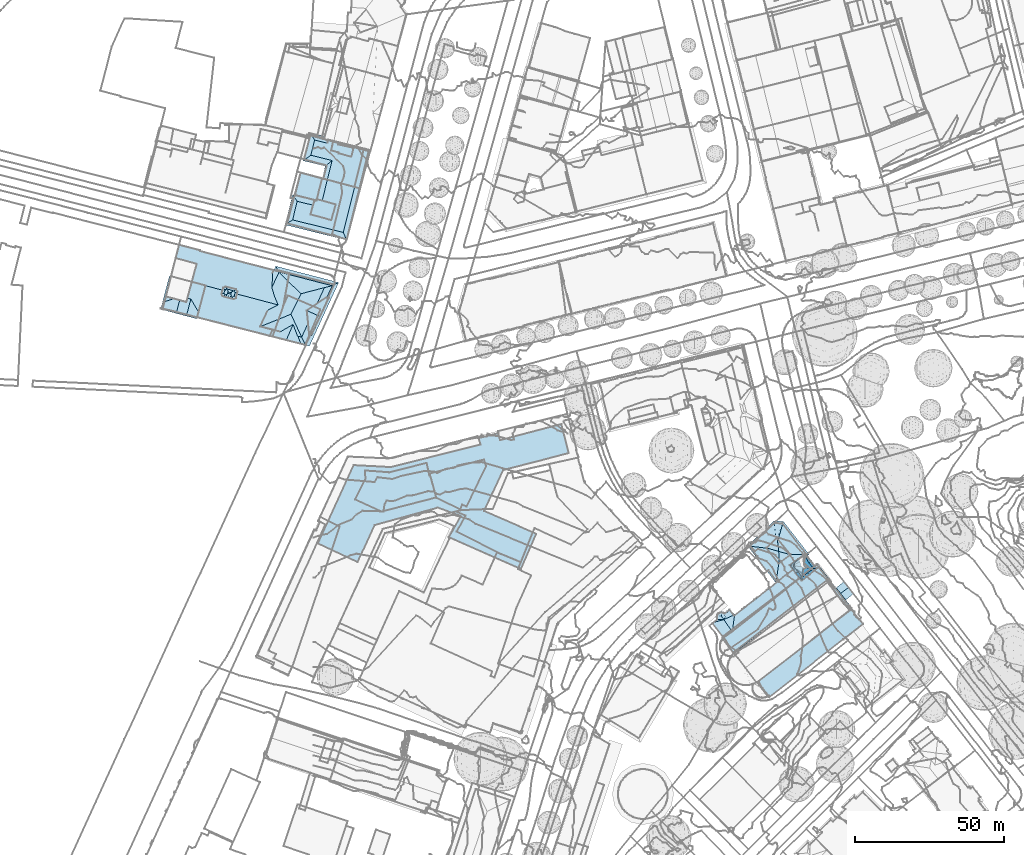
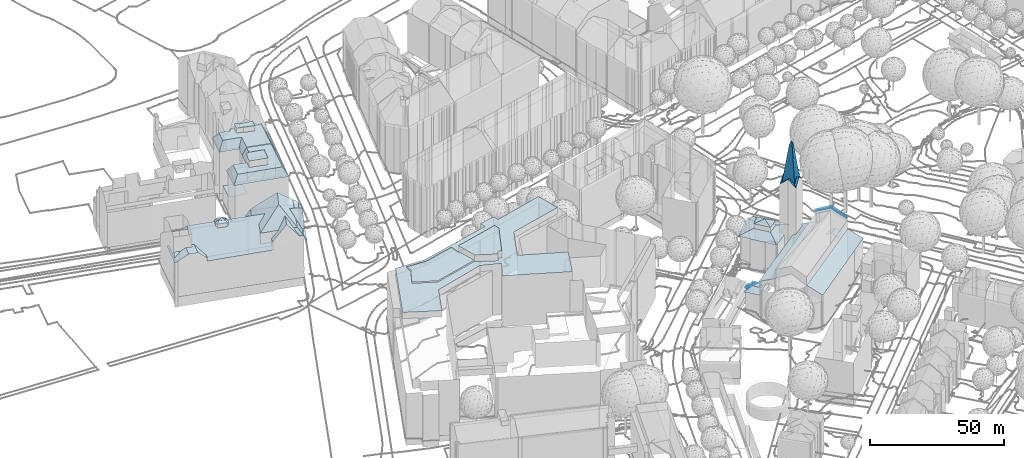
# Not in any storey, part 68 of 477: 20 roofs.
"""IFC4 building model written with IfcOpenShell, lengths in metres."""

from ifc_helpers import new_model, si_unit, frame, origin_with_axes, place, context, subcontext, project, spatial, polygons, element, save


model = new_model("IFC4")

# Units and contexts
model_context = context("Model", 3, precision=1e-05, world=origin_with_axes())
body_context = subcontext(model_context, "Body", "Model", "MODEL_VIEW")
ifc_project = project(units=[si_unit("AREAUNIT", "SQUARE_METRE"), si_unit("LENGTHUNIT", "METRE")], contexts=[model_context])

# Sites, building
site_1_placement = place(None, origin_with_axes())
site_1 = spatial("IfcSite", under=ifc_project, at=site_1_placement, Name="Topoexport Site")
site_2_placement = place(site_1_placement, origin_with_axes())
site_2 = spatial("IfcSite", under=site_1, at=site_2_placement, Name="TPX_BUILDINGS")
building_1_placement = place(site_2_placement, frame((-19.7342679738, 221.4617160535, 529.9572), z_axis=(0.0, 0.0, 1.0), x_axis=(1.0, 0.0, 0.0)))
building_1 = spatial("IfcBuilding", under=site_2, at=building_1_placement, Name="Building 139", CompositionType="ELEMENT")

# Roofs
roof_1_placement = place(None, frame((-19.7342679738, 221.4617160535, 529.9572), z_axis=(0.0, 0.0, 1.0), x_axis=(1.0, 0.0, 0.0)))
element("IfcRoof", 1, at=roof_1_placement, inside=building_1, Name="Roof 3", context=body_context, shape_type="Tessellation", body=[
    polygons([(75.1140000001, 70.9530999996, 30.7921), (81.0179999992, 74.811499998, 30.7921), (81.6960000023, 72.4179999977, 30.7921), (102.2939999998, 77.878899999, 30.792), (104.7769999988, 68.0557000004, 30.792), (76.2980000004, 65.9159999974, 30.7921), (57.0100000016, 64.7841999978, 30.7921), (82.7039999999, 62.3525999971, 30.792), (74.4360000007, 73.4091999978, 30.7921), (76.9759999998, 63.7109999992, 30.7921), (88.6739999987, 28.995099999, 30.792), (76.2760000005, 48.5654999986, 30.792), (93.8509999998, 40.9062999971, 30.792), (64.7349999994, 40.3495999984, 30.792), (68.1649999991, 49.1210999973, 30.792), (68.9609999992, 50.686499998, 30.792), (70.3790000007, 50.1122999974, 30.792), (68.4460000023, 46.8564999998, 30.792), (60.7349999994, 49.7353999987, 30.7921), (64.4039999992, 39.7743999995, 30.792), (44.3000000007, 61.5976999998, 30.7921), (44.868999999, 63.3554999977, 30.7921), (57.9120000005, 60.441399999, 30.7921), (58.0269999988, 61.1943999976, 30.7921), (58.1950000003, 60.5790999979, 30.7921), (36.4120000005, 59.4501999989, 30.7921), (32.3900000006, 64.0020000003, 30.7921), (36.1889999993, 62.2168000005, 30.7921), (32.8289999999, 52.4316999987, 30.7921), (20.3310000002, 37.6767999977, 30.7921), (41.7300000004, 48.3495999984, 30.7921), (60.2250000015, 53.1640999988, 30.7921), (60.2850000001, 52.9443999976, 30.7921), (33.7100000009, 31.3662, 30.7921), (39.4550000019, 43.8388999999, 30.7921)], [[[3, 2, 1]], [[5, 4, 3]], [[1, 7, 6]], [[8, 3, 6]], [[6, 3, 1]], [[9, 1, 2]], [[10, 8, 6]], [[8, 5, 3]], [[13, 12, 11]], [[11, 12, 14]], [[10, 12, 8]], [[17, 16, 15]], [[12, 10, 17]], [[15, 19, 18]], [[14, 12, 18]], [[15, 18, 17]], [[18, 12, 17]], [[11, 14, 20]], [[22, 21, 7]], [[1, 22, 7]], [[25, 24, 23]], [[23, 24, 7]], [[28, 27, 26]], [[28, 21, 22]], [[29, 26, 27]], [[27, 30, 29]], [[28, 22, 27]], [[33, 32, 31]], [[19, 15, 33]], [[31, 19, 33]], [[35, 30, 34]], [[35, 31, 29]], [[29, 30, 35]], [[19, 31, 35]], [[24, 6, 7]]]),
])
roof_2_placement = place(None, frame((-19.7342679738, 221.4617160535, 529.9572), z_axis=(0.0, 0.0, 1.0), x_axis=(1.0, 0.0, 0.0)))
element("IfcRoof", 2, at=roof_2_placement, inside=building_1, Name="Roof 5", context=body_context, shape_type="Tessellation", body=[
    polygons([(44.3000000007, 61.5976999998, 31.314), (32.8289999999, 52.4316999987, 31.314), (36.4120000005, 59.4501999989, 31.314), (36.1889999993, 62.2168000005, 31.314), (41.7300000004, 48.3495999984, 31.314), (57.9120000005, 60.441399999, 31.314), (58.1950000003, 60.5790999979, 31.314), (60.2250000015, 53.1640999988, 31.314), (57.0100000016, 64.7841999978, 31.314)], [[[3, 2, 1]], [[1, 4, 3]], [[6, 2, 5]], [[6, 8, 7]], [[6, 1, 2]], [[6, 9, 1]], [[6, 5, 8]]]),
])
roof_3_placement = place(None, frame((-19.7342679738, 221.4617160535, 529.9572), z_axis=(0.0, 0.0, 1.0), x_axis=(1.0, 0.0, 0.0)))
element("IfcRoof", 3, at=roof_3_placement, inside=building_1, Name="Roof 11", context=body_context, shape_type="Tessellation", body=[
    polygons([(68.9609999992, 50.686499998, 33.8358), (76.9759999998, 63.7109999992, 33.8358), (70.3790000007, 50.1122999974, 33.8358), (76.2980000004, 65.9159999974, 33.8358), (58.0269999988, 61.1943999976, 33.8358), (60.2850000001, 52.9443999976, 33.8358), (68.1649999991, 49.1210999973, 33.8358)], [[[3, 2, 1]], [[5, 2, 4]], [[6, 1, 2]], [[7, 1, 6]], [[6, 2, 5]]]),
])

# Building
building_2_placement = place(site_2_placement, frame((140.4987320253, 222.5740160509, 530.262), z_axis=(0.0, 0.0, 1.0), x_axis=(1.0, 0.0, 0.0)))
building_2 = spatial("IfcBuilding", under=site_2, at=building_2_placement, Name="Building 152", CompositionType="ELEMENT")

# Roofs
roof_4_placement = place(None, frame((140.4987320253, 222.5740160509, 530.262), z_axis=(0.0, 0.0, 1.0), x_axis=(1.0, 0.0, 0.0)))
element("IfcRoof", 4, at=roof_4_placement, inside=building_2, Name="Roof 1", context=body_context, shape_type="Tessellation", body=[
    polygons([(0.2019999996, -0.2938999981, 19.3632), (0.393000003, -0.5409999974, 19.5061), (0.3100000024, -0.6053999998, 19.5061), (0.0020000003, -0.0028999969, 19.2022), (0.2400000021, -0.2733999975, 19.3662), (0.1760000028, -0.2118999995, 19.3262), (0.1160000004, -0.1415999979, 19.2842), (16.0520000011, 12.1543000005, 19.2632), (-3.5350000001, 4.4024000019, 16.6254), (22.9200000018, 24.004900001, 16.8834), (-3.5700000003, 5.2969000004, 16.2925), (-3.9800000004, 4.9814999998, 16.2925), (22.6060000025, 24.4268000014, 16.6434), (22.1420000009, 25.0420000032, 16.2925), (22.2920000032, 24.8496000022, 16.4035), (31.819000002, 24.5469000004, 19.1602), (32.1730000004, 24.5800999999, 19.2462), (31.9360000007, 24.3955000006, 19.2472), (32.5430000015, 24.1455000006, 19.5061), (32.5240000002, 24.1319000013, 19.5061), (28.2520000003, 29.7325000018, 16.2925), (25.5170000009, 26.067400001, 16.8584), (28.0470000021, 29.5752000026, 16.2925), (28.143000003, 28.1905000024, 16.8204), (27.4000000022, 29.0791000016, 16.2925), (0.2330000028, -0.2714999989, 19.3142), (0.2400000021, -0.2733999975, 19.1662), (0.1760000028, -0.2118999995, 19.1762), (0.2330000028, -0.2714999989, 19.2142)], [[[3, 2, 1]], [[3, 1, 4]], [[7, 6, 5]], [[7, 5, 4]], [[9, 5, 8]], [[10, 9, 8]], [[5, 9, 4]], [[12, 9, 11]], [[9, 13, 11]], [[9, 10, 13]], [[4, 9, 3]], [[11, 15, 14]], [[15, 11, 13]], [[10, 8, 16]], [[18, 17, 16]], [[17, 20, 19]], [[19, 21, 17]], [[22, 10, 16]], [[25, 24, 23]], [[16, 17, 24]], [[24, 22, 16]], [[23, 24, 21]], [[24, 17, 21]], [[6, 26, 5]], [[29, 28, 27]]]),
])
roof_5_placement = place(None, frame((140.4987320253, 222.5740160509, 530.262), z_axis=(0.0, 0.0, 1.0), x_axis=(1.0, 0.0, 0.0)))
element("IfcRoof", 5, at=roof_5_placement, inside=building_2, Name="Roof 3", context=body_context, shape_type="Tessellation", body=[
    polygons([(42.7580000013, 10.558600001, 17.2763), (11.4979999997, -14.8368999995, 16.9084), (23.6410000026, 2.0088, 19.3861), (39.4150000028, 14.1826000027, 19.3581), (43.5930000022, 9.4844000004, 16.6994), (11.8600000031, -15.3037, 16.6584), (7.8670000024, -10.1659999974, 19.4151), (15.7540000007, -4.0790999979, 19.4011), (39.376000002, 14.2285000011, 19.3831), (39.6560000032, 14.4688000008, 19.3911), (43.6530000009, 9.4073000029, 16.6584), (39.6600000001, 14.5449000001, 19.4151), (39.643000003, 14.4854000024, 19.4001), (39.6220000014, 14.5137000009, 19.4141), (39.6600000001, 14.5449000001, 19.2152), (39.625, 14.5127000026, 19.2901), (39.6210000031, 14.514700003, 19.2152)], [[[3, 2, 1]], [[3, 1, 4]], [[2, 6, 5]], [[8, 7, 2]], [[3, 8, 2]], [[4, 10, 9]], [[4, 1, 10]], [[1, 2, 5]], [[6, 11, 5]], [[10, 1, 12]], [[12, 14, 13]], [[12, 13, 10]], [[17, 16, 15]]]),
])
roof_6_placement = place(None, frame((140.4987320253, 222.5740160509, 530.262), z_axis=(0.0, 0.0, 1.0), x_axis=(1.0, 0.0, 0.0)))
element("IfcRoof", 6, at=roof_6_placement, inside=building_2, Name="Roof 4", context=body_context, shape_type="Tessellation", body=[
    polygons([(36.8370000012, 18.2471000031, 26.8474), (34.9480000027, 19.0127000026, 27.7213), (35.7479999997, 19.6465000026, 27.7353), (35.9580000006, 19.813500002, 27.7393), (39.1830000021, 14.0625, 24.4677), (39.6560000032, 14.4688000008, 24.4996), (39.9700000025, 14.7373000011, 24.5216), (31.819000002, 24.5469000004, 24.5097), (32.064000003, 24.7393000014, 24.5217), (31.2490000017, 24.0987000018, 24.4827)], [[[3, 2, 1]], [[3, 1, 4]], [[1, 2, 5]], [[5, 6, 1]], [[7, 4, 1]], [[7, 1, 6]], [[2, 9, 8]], [[2, 8, 10]], [[3, 4, 9]], [[9, 2, 3]]]),
])
roof_7_placement = place(None, frame((140.4987320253, 222.5740160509, 530.262), z_axis=(0.0, 0.0, 1.0), x_axis=(1.0, 0.0, 0.0)))
element("IfcRoof", 7, at=roof_7_placement, inside=building_2, Name="Roof 6", context=body_context, shape_type="Tessellation", body=[
    polygons([(38.6579999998, 21.8047000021, 15.4845), (36.007000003, 19.8526000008, 15.4845), (37.0769999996, 23.7266000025, 13.9337), (40.4290000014, 19.8311000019, 14.0807), (35.7589999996, 19.6338, 15.4845), (36.7050000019, 18.4170000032, 14.7106), (37.4810000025, 17.4180000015, 14.0807), (35.1160000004, 20.4600000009, 14.8166), (34.2829999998, 21.5313000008, 13.9337)], [[[3, 2, 1]], [[2, 4, 1]], [[6, 2, 5]], [[7, 4, 6]], [[2, 6, 4]], [[2, 8, 5]], [[8, 2, 3]], [[3, 9, 8]]]),
])
roof_8_placement = place(None, frame((140.4987320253, 222.5740160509, 530.262), z_axis=(0.0, 0.0, 1.0), x_axis=(1.0, 0.0, 0.0)))
element("IfcRoof", 8, at=roof_8_placement, inside=building_2, Name="Roof 7", context=body_context, shape_type="Tessellation", body=[
    polygons([(22.268000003, 30.5244000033, 40.8551), (19.825000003, 29.1026000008, 38.8453), (21.6850000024, 31.3408000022, 40.8551), (20.0500000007, 27.7920000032, 39.5352), (21.7540000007, 27.0976999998, 40.8551), (20.9180000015, 26.6152999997, 40.8551), (18.9100000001, 29.2725000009, 37.9304), (22.2920000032, 24.8496000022, 38.8803), (21.9860000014, 25.2402999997, 39.3183), (23.0050000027, 25.1494000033, 38.8453), (23.432, 27.8008000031, 55.1118), (22.7719999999, 28.8155000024, 55.1068), (23.5830000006, 28.5694000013, 56.7956), (22.268000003, 30.5244000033, 40.6551), (19.825000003, 29.1026000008, 38.6453), (22.7719999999, 28.8155000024, 54.9068), (21.7540000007, 27.0976999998, 40.6551), (23.0050000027, 25.1494000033, 38.6453), (23.432, 27.8008000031, 54.9128)], [[[3, 2, 1]], [[5, 2, 4]], [[5, 4, 6]], [[7, 4, 2]], [[9, 8, 5]], [[5, 6, 9]], [[10, 5, 8]], [[3, 7, 2]], [[13, 12, 11]], [[2, 12, 1]], [[16, 15, 14]], [[12, 2, 5]], [[15, 16, 17]], [[5, 10, 11]], [[19, 18, 17]], [[12, 5, 11]], [[17, 16, 19]]]),
])
roof_9_placement = place(None, frame((140.4987320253, 222.5740160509, 530.262), z_axis=(0.0, 0.0, 1.0), x_axis=(1.0, 0.0, 0.0)))
element("IfcRoof", 9, at=roof_9_placement, inside=building_2, Name="Roof 8", context=body_context, shape_type="Tessellation", body=[
    polygons([(25.3470000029, 29.9795000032, 40.8551), (26.1229999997, 30.6055000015, 40.8551), (26.9530000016, 28.1162, 38.8453), (28.143000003, 28.1905000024, 37.9304), (25.5170000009, 26.067400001, 40.8551), (24.7580000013, 26.7432000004, 40.8551), (23.0050000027, 25.1494000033, 38.8453), (22.9200000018, 24.004900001, 37.9304), (22.2920000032, 24.8496000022, 38.8803), (24.0830000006, 32.1660000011, 38.8453), (24.1420000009, 33.2149000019, 37.9304), (22.268000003, 30.5244000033, 40.8551), (21.6850000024, 31.3408000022, 40.8551), (23.432, 27.7998000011, 55.1068), (23.5830000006, 28.5694000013, 56.7956), (24.3619999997, 28.4013999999, 55.1068), (23.7030000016, 29.4199000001, 55.1068), (22.7719999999, 28.8155000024, 55.1068), (24.7580000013, 26.7432000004, 40.6551), (23.432, 27.7998000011, 54.9068), (23.0050000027, 25.1494000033, 38.6453), (26.9530000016, 28.1162, 38.6453), (24.3619999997, 28.4013999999, 54.9068), (25.3470000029, 29.9795000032, 40.6551), (24.0830000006, 32.1660000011, 38.6453), (23.7030000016, 29.4199000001, 54.9068), (22.268000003, 30.5244000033, 40.6551), (22.7719999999, 28.8155000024, 54.9068)], [[[3, 2, 1]], [[4, 2, 3]], [[3, 6, 5]], [[5, 4, 3]], [[7, 5, 6]], [[8, 5, 7]], [[8, 7, 9]], [[2, 10, 1]], [[2, 11, 10]], [[10, 13, 12]], [[11, 13, 10]], [[16, 15, 14]], [[17, 15, 16]], [[15, 17, 18]], [[14, 7, 6]], [[21, 20, 19]], [[3, 16, 6]], [[23, 22, 19]], [[6, 16, 14]], [[23, 19, 20]], [[10, 17, 1]], [[26, 25, 24]], [[16, 3, 1]], [[22, 23, 24]], [[16, 1, 17]], [[24, 23, 26]], [[17, 10, 12]], [[25, 26, 27]], [[17, 12, 18]], [[27, 26, 28]]]),
])
roof_10_placement = place(None, frame((140.4987320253, 222.5740160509, 530.262), z_axis=(0.0, 0.0, 1.0), x_axis=(1.0, 0.0, 0.0)))
element("IfcRoof", 10, at=roof_10_placement, inside=building_2, Name="Roof 10", context=body_context, shape_type="Tessellation", body=[
    polygons([(-4.0969999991, 12.0976999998, 10.1091), (-3.310999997, 11.0117000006, 10.293), (-5.7769999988, 10.9375, 9.5301), (-6.754999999, 10.014700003, 9.7801), (-7.5379999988, 9.7881000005, 9.6631), (-3.1429999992, 13.1064999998, 9.6971), (-2.8959999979, 13.3682000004, 9.5911), (-2.9589999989, 12.9776000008, 9.7071), (-1.8029999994, 13.879900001, 9.5401), (-1.4499999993, 14.5518000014, 9.3631), (-4.186999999, 13.3526000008, 9.6951), (-4.2209999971, 13.822300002, 9.5401), (-5.7899999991, 12.4453000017, 9.5451), (0.0430000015, 12.5196000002, 9.4041), (0.3200000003, 12.6446000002, 9.3311), (0.2540000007, 12.25, 9.4321), (14.2100000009, 23.379900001, 9.5281)], [[[3, 2, 1]], [[5, 4, 3]], [[2, 3, 4]], [[1, 2, 6]], [[8, 7, 6]], [[8, 6, 2]], [[8, 2, 9]], [[8, 10, 7]], [[10, 8, 9]], [[11, 1, 6]], [[11, 7, 12]], [[7, 11, 6]], [[11, 12, 13]], [[11, 13, 1]], [[3, 1, 13]], [[16, 15, 14]], [[9, 2, 14]], [[9, 15, 10]], [[15, 9, 14]], [[16, 17, 15]]]),
])
roof_11_placement = place(None, frame((140.4987320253, 222.5740160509, 530.262), z_axis=(0.0, 0.0, 1.0), x_axis=(1.0, 0.0, 0.0)))
element("IfcRoof", 11, at=roof_11_placement, inside=building_2, Name="Roof 11", context=body_context, shape_type="Tessellation", body=[
    polygons([(22.1420000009, 25.0410000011, 10.729), (15.439000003, 19.8936000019, 10.694), (21.9850000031, 25.2393000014, 10.648), (13.7039999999, 22.8115999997, 9.5721), (1.6970000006, 9.3418000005, 10.615), (14.2190000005, 23.3867000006, 9.5281), (0.2540000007, 12.25, 9.4321), (-0.375, 7.75, 10.583), (-0.8439999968, 7.389700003, 10.743), (-3.3029999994, 5.5020000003, 9.7321), (-3.310999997, 11.0117000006, 10.293), (-3.5700000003, 5.2969000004, 9.6791), (-3.4619999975, 5.1582000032, 9.6781), (-3.5359999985, 5.1006000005, 9.6631), (-7.5379999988, 9.7881000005, 9.6631), (-6.754999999, 10.014700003, 9.7801), (14.9360000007, 23.9287, 9.5381), (20.0500000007, 27.7920000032, 9.6111), (20.9180000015, 26.6152999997, 10.0911), (0.0430000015, 12.5196000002, 9.4041)], [[[3, 2, 1]], [[5, 2, 4]], [[4, 2, 6]], [[3, 6, 2]], [[8, 5, 7]], [[7, 4, 6]], [[4, 7, 5]], [[11, 10, 9]], [[14, 13, 12]], [[12, 10, 11]], [[15, 14, 12]], [[16, 15, 12]], [[11, 16, 12]], [[17, 6, 3]], [[19, 18, 17]], [[3, 19, 17]], [[20, 11, 7]], [[7, 11, 8]], [[8, 11, 9]]]),
])

# Building
building_3_placement = place(site_2_placement, frame((145.991732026, 258.2215160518, 530.886), z_axis=(0.0, 0.0, 1.0), x_axis=(1.0, 0.0, 0.0)))
building_3 = spatial("IfcBuilding", under=site_2, at=building_3_placement, Name="Building 154", CompositionType="ELEMENT")

# Roofs
roof_12_placement = place(None, frame((145.991732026, 258.2215160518, 530.886), z_axis=(0.0, 0.0, 1.0), x_axis=(1.0, 0.0, 0.0)))
element("IfcRoof", 12, at=roof_12_placement, inside=building_3, Name="Roof 0", context=body_context, shape_type="Tessellation", body=[
    polygons([(8.8370000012, -11.4657999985, 14.8316), (6.2820000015, -1.4580000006, 16.3844), (9.6840000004, -5.7841999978, 16.4304), (8.7170000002, -12.2675999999, 14.6056), (8.4140000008, -10.9228999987, 14.8266), (5.7950000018, -8.4600000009, 14.6036), (2.1710000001, -3.7373000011, 14.6026), (5.6420000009, -0.6435999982, 16.3794), (0.0500000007, 0.0469000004, 14.8386), (-0.8159999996, 0.1543000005, 14.6006), (9.7340000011, -5.8476999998, 16.3984), (9.443, -11.7188000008, 14.6096), (10.2470000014, -5.4609999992, 16.4014), (14.557, -7.8554999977, 14.6396), (13.0780000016, -3.3262000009, 16.3994), (13.7109999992, -6.4257999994, 15.2845), (14.8000000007, -7.7851999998, 14.6056), (15.5980000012, 1.746100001, 14.7896), (19.8249999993, -2.6943999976, 14.5656), (19.057, -2.745099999, 14.7936), (18.5789999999, -2.7753999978, 14.9355), (11.2369999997, 8.3623000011, 14.5756), (19.1130000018, -3.3955000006, 14.5476), (18.9869999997, -3.5205000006, 14.5446), (12.8000000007, -1.7216999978, 16.4294), (13.6390000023, -2.7324000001, 16.4104), (13.7259999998, -2.8378999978, 16.3534), (7.8339999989, 7.3916000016, 14.8386), (8.0800000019, 8.5449000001, 14.6006), (8.1720000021, 7.7098999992, 14.8376), (8.743999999, 2.5430000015, 16.3024), (6.2950000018, 0.1561999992, 16.3314), (5.569000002, -0.5507999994, 16.3374), (10.9800000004, 7.6699000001, 14.7796), (9.4670000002, 2.2959000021, 16.4654), (9.1350000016, 2.697300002, 16.2484), (11.0199999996, 7.6191000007, 14.8066), (9.0309999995, 2.822300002, 16.2154)], [[[3, 2, 1]], [[5, 4, 1]], [[5, 1, 2]], [[4, 5, 6]], [[8, 7, 6]], [[6, 5, 2]], [[8, 9, 7]], [[10, 7, 9]], [[6, 2, 8]], [[11, 3, 1]], [[13, 11, 12]], [[1, 4, 12]], [[14, 13, 12]], [[12, 11, 1]], [[13, 16, 15]], [[14, 16, 13]], [[17, 16, 14]], [[20, 19, 18]], [[20, 18, 21]], [[18, 19, 22]], [[24, 23, 20]], [[20, 21, 24]], [[19, 20, 23]], [[18, 22, 25]], [[26, 21, 18]], [[26, 18, 25]], [[15, 16, 27]], [[26, 27, 21]], [[21, 27, 16]], [[30, 29, 28]], [[32, 31, 30]], [[32, 30, 28]], [[28, 29, 10]], [[32, 28, 9]], [[9, 33, 32]], [[8, 33, 9]], [[9, 28, 10]], [[36, 35, 34]], [[37, 22, 34]], [[37, 34, 35]], [[38, 36, 34]], [[31, 38, 30]], [[34, 22, 30]], [[29, 30, 22]], [[34, 30, 38]], [[35, 25, 37]], [[22, 37, 25]]]),
])
roof_13_placement = place(None, frame((145.991732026, 258.2215160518, 530.886), z_axis=(0.0, 0.0, 1.0), x_axis=(1.0, 0.0, 0.0)))
element("IfcRoof", 13, at=roof_13_placement, inside=building_3, Name="Roof 1", context=body_context, shape_type="Tessellation", body=[
    polygons([(9.7710000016, -5.2012000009, 18.7152), (13.7259999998, -2.8378999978, 18.4752), (9.7340000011, -5.8476999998, 18.4752), (9.6610000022, -1.7177999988, 19.9861), (5.569000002, -0.5507999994, 18.4752), (9.0309999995, 2.822300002, 18.4752), (9.2850000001, 1.6719000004, 18.8632)], [[[3, 2, 1]], [[1, 2, 4]], [[5, 3, 4]], [[4, 3, 1]], [[6, 5, 4]], [[6, 4, 7]], [[2, 7, 4]], [[2, 6, 7]]]),
])

# Building
building_4_placement = place(site_2_placement, frame((-52.3232679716, 338.0819160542, 533.653), z_axis=(0.0, 0.0, 1.0), x_axis=(1.0, 0.0, 0.0)))
building_4 = spatial("IfcBuilding", under=site_2, at=building_4_placement, Name="Building 167", CompositionType="ELEMENT")

# Roofs
roof_14_placement = place(None, frame((-52.3232679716, 338.0819160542, 533.653), z_axis=(0.0, 0.0, 1.0), x_axis=(1.0, 0.0, 0.0)))
element("IfcRoof", 14, at=roof_14_placement, inside=building_4, Name="Roof 0", context=body_context, shape_type="Tessellation", body=[
    polygons([(12.2969999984, -2.8712000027, 18.6522), (12.3039999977, -2.8438000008, 18.6792), (36.7739999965, -9.1153000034, 18.8612), (1.4479999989, 2.6737999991, 20.689), (2.9349999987, 11.0692999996, 20.2811), (3.5389999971, 10.9090999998, 20.638), (0.0659999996, 0.2469999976, 20.2811), (1.4229999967, 2.5770999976, 20.689), (5.3329999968, -1.0928000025, 23.3848), (4.3549999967, 3.4461999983, 22.1809), (6.3899999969, 2.8944999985, 23.3848), (0.0, -0.0001000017, 20.2811), (-0.0230000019, -0.0870000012, 20.2811), (5.2299999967, -1.4805000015, 23.3848), (1.3909999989, 2.4520999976, 20.69), (8.6959999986, 2.2694999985, 23.3848), (9.0659999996, 3.6356999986, 23.3848), (10.1679999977, 3.3426999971, 23.3848), (8.6489999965, -2.3868000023, 23.3848), (12.2969999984, -2.8692000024, 20.2811), (12.7779999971, -1.0557000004, 20.2811), (12.1769999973, -3.322300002, 20.2811), (1.4229999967, 2.5770999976, 20.802), (1.818, 4.1336999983, 22.1929), (24.0939999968, 4.0194999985, 29.1922), (23.1099999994, 5.3641999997, 30.0001), (24.7559999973, 4.3768999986, 29.1922), (21.6689999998, 4.677699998, 29.1922), (24.6559999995, 6.0936999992, 29.1922), (25.0549999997, 5.4744999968, 29.1922), (25.3789999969, 6.557599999, 28.2473), (25.9210000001, 5.7498999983, 28.2473), (24.5409999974, 3.2498999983, 28.2473), (25.3599999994, 3.677699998, 28.2473), (20.5059999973, 4.9930999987, 28.2473), (21.3139999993, 5.3094999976, 29.1922), (20.9469999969, 4.2049999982, 28.2473), (22.1989999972, 6.7596999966, 29.1922), (21.0669999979, 7.0662999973, 28.2473), (21.8259999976, 7.5194999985, 28.2473), (21.6109999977, 6.4090999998, 29.1922), (46.123999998, -9.7833000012, 25.2535), (45.9179999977, -9.0948000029, 25.8345), (47.4509999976, -9.4825000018, 25.8345), (55.1049999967, 7.1805999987, 25.8345), (55.4959999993, 3.5487999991, 23.7827), (52.5719999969, 1.6668999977, 25.8345), (57.7309999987, 7.811499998, 23.5067), (55.7469999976, 3.7000999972, 23.6017), (55.8249999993, 3.6629999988, 23.5067), (50.0689999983, -8.6358000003, 23.6127), (48.6539999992, -11.9483000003, 23.5067), (50.1569999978, -8.6768000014, 23.5067), (49.7469999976, -5.6465000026, 25.3025), (20.9229999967, 6.5330999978, 28.0473), (20.8640000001, 6.3143999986, 28.2463), (10.5339999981, 9.0536999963, 28.2463), (21.0669999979, 7.0662999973, 27.5604), (21.8259999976, 7.5194999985, 27.0044), (11.7569999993, 20.0799999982, 18.5932), (5.0939999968, 17.0340999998, 22.6869), (6.2289999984, 21.5037999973, 18.6292), (6.2390000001, 21.5438999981, 18.5932), (37.6169999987, 12.0243999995, 19.6121), (12.175999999, 15.1170999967, 22.7198), (25.3789999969, 6.557599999, 27.0214), (41.3399999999, 0.8846999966, 28.2463), (25.7249999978, 5.0252999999, 28.2463), (25.7839999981, 5.244099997, 28.0473), (25.9210000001, 5.7498999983, 27.5864), (37.5129999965, 7.4725999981, 23.5067), (37.7159999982, 12.2332999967, 19.4121), (37.6109999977, 7.681599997, 23.3068), (43.2639999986, 11.7244999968, 18.5932), (39.0649999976, 12.8387999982, 18.5932), (25.6649999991, 4.8035999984, 28.0473), (25.3599999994, 3.677699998, 27.0374), (37.7029999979, -9.3536000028, 18.8682), (24.5409999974, 3.2498999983, 26.4975), (20.8029999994, 6.0926999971, 28.0473), (20.5059999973, 4.9930999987, 27.0604), (20.9469999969, 4.2049999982, 26.4985), (12.7179999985, -1.2803000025, 20.0811), (48.7039999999, -12.1592000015, 23.1647), (48.060999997, -11.9952000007, 23.1947), (46.9579999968, -11.7139000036, 23.3277), (46.8519999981, -11.6006000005, 23.5067), (38.737999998, 14.4051999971, 19.6121), (59.9009999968, 8.9080999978, 19.6121), (58.3640000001, 8.1317999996, 22.3698), (39.5859999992, 12.9266999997, 22.5638), (39.856999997, 12.4539999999, 23.5067), (50.8229999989, -8.6231000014, 22.0088), (50.0649999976, -12.505900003, 19.6121), (54.5039999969, -0.822300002, 21.7809), (50.4100000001, -8.7950000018, 22.7898), (56.3699999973, 3.4090999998, 21.9609), (50.5529999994, -8.4932000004, 22.7788), (49.6539999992, -4.6993000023, 25.8395), (38.0779999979, 13.0037999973, 19.6121), (38.0779999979, 13.0037999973, 19.4121), (37.8969999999, 12.620099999, 19.4211)], [[[3, 2, 1]], [[6, 5, 4]], [[8, 4, 7]], [[11, 10, 9]], [[4, 5, 7]], [[9, 7, 12]], [[14, 12, 13]], [[7, 9, 15]], [[9, 12, 14]], [[15, 9, 10]], [[7, 15, 8]], [[16, 11, 9]], [[18, 17, 16]], [[16, 19, 18]], [[9, 14, 19]], [[9, 19, 16]], [[21, 19, 20]], [[19, 21, 18]], [[19, 22, 20]], [[15, 10, 23]], [[24, 23, 10]], [[27, 26, 25]], [[28, 25, 26]], [[26, 30, 29]], [[30, 26, 27]], [[30, 31, 29]], [[31, 30, 32]], [[34, 25, 33]], [[25, 34, 27]], [[28, 36, 35]], [[35, 37, 28]], [[40, 39, 38]], [[41, 38, 39]], [[41, 26, 38]], [[29, 38, 26]], [[26, 41, 36]], [[26, 36, 28]], [[44, 43, 42]], [[47, 46, 45]], [[49, 48, 45]], [[48, 49, 50]], [[49, 45, 46]], [[44, 52, 51]], [[51, 52, 53]], [[51, 54, 44]], [[57, 56, 55]], [[55, 58, 57]], [[59, 57, 58]], [[62, 61, 60]], [[60, 63, 62]], [[60, 65, 64]], [[65, 60, 61]], [[65, 59, 66]], [[57, 59, 65]], [[69, 68, 67]], [[67, 70, 69]], [[71, 64, 65]], [[64, 72, 60]], [[70, 67, 66]], [[74, 72, 73]], [[71, 67, 73]], [[72, 75, 60]], [[75, 72, 74]], [[67, 74, 73]], [[67, 71, 66]], [[71, 65, 66]], [[67, 68, 76]], [[76, 77, 67]], [[3, 78, 67]], [[79, 67, 77]], [[21, 3, 79]], [[3, 67, 79]], [[80, 56, 57]], [[80, 57, 81]], [[57, 82, 81]], [[79, 82, 18]], [[82, 57, 18]], [[2, 3, 83]], [[83, 3, 21]], [[21, 79, 18]], [[57, 17, 18]], [[37, 25, 28]], [[37, 33, 25]], [[41, 39, 56]], [[56, 35, 36]], [[56, 36, 41]], [[29, 31, 40]], [[40, 38, 29]], [[52, 85, 84]], [[85, 52, 86]], [[87, 86, 52]], [[52, 44, 87]], [[42, 87, 44]], [[90, 89, 88]], [[48, 90, 91]], [[48, 91, 92]], [[91, 90, 88]], [[94, 93, 84]], [[94, 95, 93]], [[52, 84, 53]], [[96, 53, 84]], [[93, 96, 84]], [[95, 89, 97]], [[90, 97, 89]], [[94, 89, 95]], [[50, 97, 90]], [[93, 98, 96]], [[90, 48, 50]], [[54, 99, 44]], [[91, 71, 92]], [[100, 91, 88]], [[64, 71, 91]], [[64, 91, 100]], [[27, 34, 68]], [[68, 32, 30]], [[68, 30, 27]], [[72, 102, 101]]]),
])
roof_15_placement = place(None, frame((-52.3232679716, 338.0819160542, 533.653), z_axis=(0.0, 0.0, 1.0), x_axis=(1.0, 0.0, 0.0)))
element("IfcRoof", 15, at=roof_15_placement, inside=building_4, Name="Roof 1", context=body_context, shape_type="Tessellation", body=[
    polygons([(47.2589999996, 5.1395999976, 32.9548), (43.8509999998, -1.7706000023, 32.9548), (41.3429999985, 10.7557999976, 25.8345), (47.4509999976, -9.4825000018, 25.8345), (33.4780000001, -5.9571000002, 25.8345), (39.5329999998, 1.3641999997, 28.0463), (36.1079999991, -0.3702000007, 25.8345), (38.300999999, 4.2918999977, 25.8345), (49.6529999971, -4.6895000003, 25.8345), (52.6229999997, 1.7782999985, 25.7495), (49.6509999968, -4.6983000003, 25.8365), (49.2419999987, -0.5303000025, 28.4052), (55.5639999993, 3.7850999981, 23.8127), (53.7189999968, -2.6016000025, 28.4052), (54.5039999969, -0.822300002, 27.0314), (56.3699999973, 3.4090999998, 23.7627), (50.0409999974, -8.6231000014, 23.8127), (50.8209999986, -8.9883000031, 23.7627), (50.4100000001, -8.7950000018, 23.7887), (42.2589999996, -10.5167000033, 29.5431), (40.1169999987, -7.6319000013, 25.6345), (40.2739999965, -7.6710000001, 25.8345), (44.5579999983, -5.2081000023, 29.5431), (36.7729999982, -9.1172000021, 22.5208), (37.7039999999, -7.0235000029, 22.5488), (47.1719999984, -11.6622000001, 23.3067), (47.3029999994, -11.8018000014, 23.0857), (46.3939999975, -9.7217000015, 25.1715), (46.0739999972, -9.134800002, 25.8345), (46.2299999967, -9.1739000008, 25.6345), (39.856999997, 12.4539999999, 23.5067), (57.7309999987, 7.811499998, 23.5067), (55.1049999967, 7.1805999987, 25.8345), (37.4149999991, 7.2635999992, 23.5067), (49.5159999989, -3.3096000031, 26.6284), (49.2589999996, -0.5381000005, 28.2053), (52.5719999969, 1.6668999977, 25.8345), (49.2419999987, -0.5303000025, 28.2263), (52.6229999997, 1.7782999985, 25.8345)], [[[3, 2, 1]], [[4, 1, 2]], [[2, 6, 5]], [[6, 2, 3]], [[5, 6, 7]], [[3, 8, 6]], [[11, 10, 9]], [[14, 13, 12]], [[16, 13, 15]], [[14, 15, 13]], [[14, 12, 17]], [[19, 18, 14]], [[14, 17, 19]], [[22, 21, 20]], [[23, 22, 20]], [[24, 20, 21]], [[24, 21, 25]], [[20, 27, 26]], [[20, 26, 28]], [[28, 30, 29]], [[29, 23, 20]], [[28, 29, 20]], [[33, 32, 31]], [[31, 3, 33]], [[3, 31, 34]], [[34, 8, 3]], [[33, 3, 1]], [[4, 11, 35]], [[37, 36, 35]], [[37, 35, 9]], [[9, 35, 11]], [[35, 38, 4]], [[38, 39, 33]], [[38, 33, 1]], [[38, 1, 4]], [[2, 23, 4]], [[23, 2, 22]], [[4, 23, 29]], [[22, 2, 5]]]),
])

# Building
building_5_placement = place(site_2_placement, frame((-4.0472679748, 388.3377160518, 535.5509), z_axis=(0.0, 0.0, 1.0), x_axis=(1.0, 0.0, 0.0)))
building_5 = spatial("IfcBuilding", under=site_2, at=building_5_placement, Name="Building 233", CompositionType="ELEMENT")

# Roofs
roof_16_placement = place(None, frame((-4.0472679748, 388.3377160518, 535.5509), z_axis=(0.0, 0.0, 1.0), x_axis=(1.0, 0.0, 0.0)))
element("IfcRoof", 16, at=roof_16_placement, inside=building_5, Name="Roof 0", context=body_context, shape_type="Tessellation", body=[
    polygons([(11.6750000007, 2.3682000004, 27.7023), (9.1510000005, 2.9882999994, 27.6224), (11.5090000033, 5.0390999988, 27.6224), (12.2939999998, 4.8467000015, 27.7024), (9.9150000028, 6.0732000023, 27.6224), (9.5560000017, 4.9618999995, 27.6224), (11.6579999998, 5.6436000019, 27.6224), (15.9140000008, 0.8984000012, 27.7823), (16.6560000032, 3.8612999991, 27.7824), (11.5880000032, 2.0604999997, 27.7823)], [[[3, 2, 1]], [[3, 1, 4]], [[6, 3, 5]], [[3, 6, 2]], [[7, 5, 3]], [[4, 1, 8]], [[8, 9, 4]], [[8, 1, 10]]]),
])
roof_17_placement = place(None, frame((-4.0472679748, 388.3377160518, 535.5509), z_axis=(0.0, 0.0, 1.0), x_axis=(1.0, 0.0, 0.0)))
element("IfcRoof", 17, at=roof_17_placement, inside=building_5, Name="Roof 1", context=body_context, shape_type="Tessellation", body=[
    polygons([(20.1870000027, 3.6581999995, 25.4786), (15.9140000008, 0.8984000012, 25.4785), (18.632000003, 3.6015999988, 25.4786), (16.9740000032, -9.2813000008, 25.4785), (16.6560000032, 3.8612999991, 25.4786), (11.620000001, 5.4912, 25.4786), (9.4260000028, -0.308600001, 25.4785), (12.2939999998, 4.8467000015, 25.4786), (7.8080000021, -6.8262000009, 25.4785), (11.5880000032, 2.0604999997, 25.4785), (11.6750000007, 2.3682000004, 25.4785), (9.1510000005, 2.9882999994, 25.4786), (2.268000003, 1.4686999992, 25.4785), (7.870000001, 5.5155999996, 25.4786), (11.5090000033, 5.0390999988, 25.4786), (9.5560000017, 4.9618999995, 25.4786), (3.5400000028, 6.5908000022, 25.4786), (9.1540000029, 6.1561999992, 25.4786), (18.7590000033, 4.0117000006, 25.4786), (9.8790000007, 5.9600000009, 25.4786), (8.1500000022, 6.6464999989, 25.4786), (9.2180000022, 6.3808999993, 25.4786), (7.3990000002, -1.9824000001, 22.4248), (6.4869999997, -6.4716999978, 22.8107), (7.1130000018, -2.2177999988, 21.9948), (6.0830000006, -6.3642999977, 21.9948), (-0.307, -0.375, 21.9948), (0.1579999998, -0.0419999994, 22.6238), (2.0150000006, 8.9736000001, 21.995), (2.4630000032, 8.2743999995, 23.0179), (7.4340000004, 6.6191000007, 23.7488), (7.8969999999, 5.6240000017, 25.2786), (8.0990000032, 6.4404000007, 23.7738), (6.9960000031, 7.7373000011, 21.995), (6.8440000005, 7.1660000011, 23.0539), (16.9770000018, -9.2822000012, 25.2805), (16.9740000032, -9.2813000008, 25.2955), (20.1900000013, 3.6572000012, 25.2806), (20.9649999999, 2.9736000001, 23.5608), (18.6650000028, -9.7353999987, 21.9948), (21.7670000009, 2.7578000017, 21.9949), (20.944000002, 3.4697000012, 23.8208), (20.8500000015, 3.004900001, 23.7848), (20.1871000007, 3.6581999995, 25.2956)], [[[3, 2, 1]], [[1, 2, 4]], [[3, 5, 2]], [[5, 3, 6]], [[7, 4, 2]], [[5, 6, 8]], [[9, 4, 7]], [[2, 10, 7]], [[12, 10, 11]], [[7, 12, 13]], [[12, 7, 10]], [[13, 12, 14]], [[6, 15, 8]], [[14, 12, 16]], [[13, 14, 17]], [[18, 14, 16]], [[3, 1, 19]], [[18, 16, 20]], [[22, 21, 18]], [[18, 21, 14]], [[24, 9, 23]], [[26, 24, 25]], [[24, 23, 25]], [[23, 9, 7]], [[28, 27, 25]], [[13, 28, 25]], [[23, 7, 13]], [[23, 13, 25]], [[30, 29, 28]], [[17, 30, 13]], [[28, 13, 30]], [[27, 28, 29]], [[17, 32, 31]], [[33, 31, 32]], [[14, 32, 17]], [[35, 34, 30]], [[34, 29, 30]], [[35, 30, 17]], [[35, 17, 31]], [[38, 37, 36]], [[40, 39, 36]], [[40, 41, 39]], [[43, 42, 38]], [[44, 37, 38]], [[38, 36, 43]], [[39, 43, 36]]]),
])

# Building
building_6_placement = place(site_2_placement, frame((-9.7142679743, 366.807416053, 535.5508), z_axis=(0.0, 0.0, 1.0), x_axis=(1.0, 0.0, 0.0)))
building_6 = spatial("IfcBuilding", under=site_2, at=building_6_placement, Name="Building 235", CompositionType="ELEMENT")

# Roofs
roof_18_placement = place(None, frame((-9.7142679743, 366.807416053, 535.5508), z_axis=(0.0, 0.0, 1.0), x_axis=(1.0, 0.0, 0.0)))
element("IfcRoof", 18, at=roof_18_placement, inside=building_6, Name="Roof 0", context=body_context, shape_type="Tessellation", body=[
    polygons([(14.876000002, 1.0830000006, 28.2603), (7.8379999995, 3.0029999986, 28.1433), (9.0879999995, 7.4023999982, 28.1973), (10.0859999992, 8.1035000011, 28.2203), (16.3330000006, 6.3975000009, 28.3243)], [[[3, 2, 1]], [[3, 5, 4]], [[5, 3, 1]]]),
])
roof_19_placement = place(None, frame((-9.7142679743, 366.807416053, 535.5508), z_axis=(0.0, 0.0, 1.0), x_axis=(1.0, 0.0, 0.0)))
element("IfcRoof", 19, at=roof_19_placement, inside=building_6, Name="Roof 1", context=body_context, shape_type="Tessellation", body=[
    polygons([(3.3489999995, 7.5205000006, 25.2956), (7.8379999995, 3.0029999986, 25.2956), (1.7950000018, 1.2608000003, 25.2956), (14.876000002, 1.0830000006, 25.2956), (8.7410000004, 6.1816999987, 25.2956), (16.3330000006, 6.3975000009, 25.2956), (18.8599999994, -2.9774999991, 25.2956), (13.4750000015, 14.7040999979, 25.2956), (22.6410000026, 12.2480999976, 25.2956), (11.7250000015, 7.6552999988, 25.2956), (2.3720000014, 8.8876999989, 23.2498), (1.7719999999, 9.7256000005, 21.9949), (0.0260000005, 0.0966999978, 22.9958), (-0.7449999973, -0.4111000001, 21.9949), (19.9059999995, -5.3115000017, 22.3209), (20.0210000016, -5.567400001, 21.9949), (20.3120000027, -4.3955000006, 21.9949), (24.3320000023, 11.7949000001, 21.9949), (12.1539999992, 15.058600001, 22.7669), (10.0859999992, 8.1035000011, 22.1559), (11.7369999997, 15.1103999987, 21.9949), (9.9770000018, 8.0273999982, 21.9949), (11.751000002, 15.1660000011, 21.9949), (2.5439999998, 9.5331999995, 21.9949), (9.0879999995, 7.4023999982, 22.9158), (9.620000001, 7.7763999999, 21.9949)], [[[3, 2, 1]], [[2, 3, 4]], [[5, 1, 2]], [[4, 7, 6]], [[7, 4, 3]], [[6, 9, 8]], [[9, 6, 7]], [[6, 8, 10]], [[11, 3, 1]], [[13, 11, 12]], [[13, 3, 11]], [[14, 13, 12]], [[13, 14, 15]], [[3, 13, 7]], [[15, 7, 13]], [[16, 15, 14]], [[16, 17, 15]], [[15, 17, 18]], [[7, 18, 9]], [[18, 7, 15]], [[20, 10, 19]], [[22, 20, 21]], [[19, 21, 20]], [[23, 21, 19]], [[19, 10, 8]], [[12, 11, 24]], [[24, 11, 25]], [[1, 5, 25]], [[26, 24, 25]], [[25, 11, 1]]]),
])
roof_20_placement = place(None, frame((-9.7142679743, 366.807416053, 535.5508), z_axis=(0.0, 0.0, 1.0), x_axis=(1.0, 0.0, 0.0)))
element("IfcRoof", 20, at=roof_20_placement, inside=building_6, Name="Roof 2", context=body_context, shape_type="Tessellation", body=[
    polygons([(11.7369999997, 15.1103999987, 9.5111), (4.5789999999, 17.1094000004, 9.5111), (12.1970000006, 15.2168000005, 9.5111), (4.5540000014, 17.0351999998, 9.5111), (9.620000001, 7.7763999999, 9.5111), (9.9770000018, 8.0273999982, 9.5111), (12.1390000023, 15.0020000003, 9.5111), (2.688000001, 9.4970999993, 9.5111)], [[[3, 2, 1]], [[1, 2, 4]], [[1, 4, 5]], [[1, 5, 6]], [[1, 7, 3]], [[5, 4, 8]]]),
])

save(model, "model.ifc")
